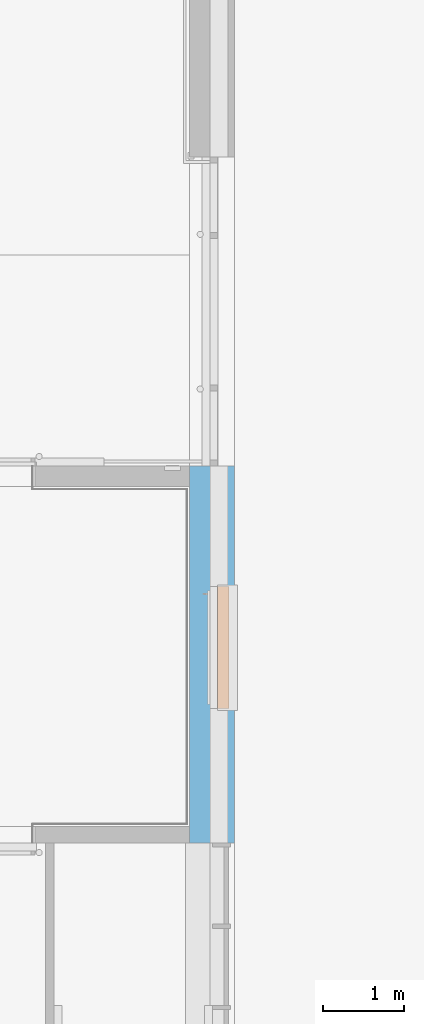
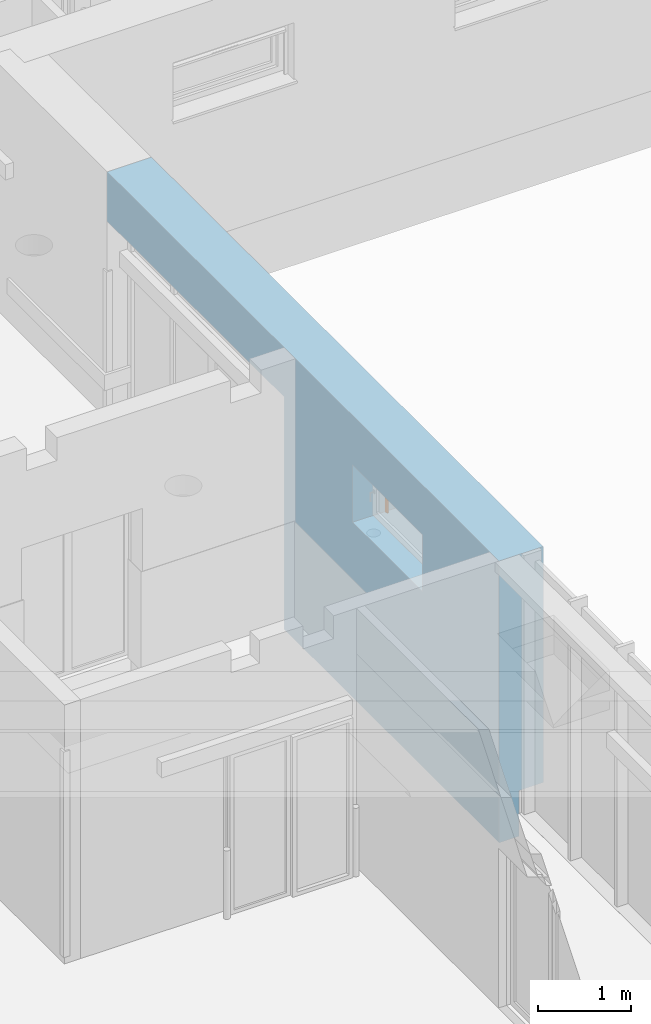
# One storey, part 107 of 140: 1 proxy, 2 openings, plus 1 element that does not belong to this part.
"""IFC4 building model written with IfcOpenShell, lengths in metres."""

from ifc_helpers import new_model, entity, si_unit, converted_unit, derived_unit, frame, frame_2d, origin, origin_with_axes, place, context, subcontext, project, spatial, polyline, rectangle, outline, extrude, clip, bounded_halfspace, faceted_brep, source, transform, mapped, material, layer, layer_set, layer_usage, element, fill, save


model = new_model("IFC4")

# Units and contexts
model_context = context("Model", 3, precision=1e-05, world=origin())
body_context = subcontext(model_context, "Body", "Model", "MODEL_VIEW")
ifc_project = project(units=[si_unit("LENGTHUNIT", "METRE"), si_unit("AREAUNIT", "SQUARE_METRE"), si_unit("VOLUMEUNIT", "CUBIC_METRE"), si_unit("MASSUNIT", "GRAM", prefix="KILO"), converted_unit("PLANEANGLEUNIT", "DEGREE", entity("IfcPlaneAngleMeasure", 0.0174532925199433), si_unit("PLANEANGLEUNIT", "RADIAN"), dimensions=[0, 0, 0, 0, 0, 0, 0]), derived_unit("THERMALTRANSMITTANCEUNIT", [(si_unit("POWERUNIT", "WATT"), 1), (si_unit("THERMODYNAMICTEMPERATUREUNIT", "KELVIN"), -1), (si_unit("LENGTHUNIT", "METRE"), -2)]), derived_unit("VOLUMETRICFLOWRATEUNIT", [(si_unit("LENGTHUNIT", "METRE"), 3), (converted_unit("TIMEUNIT", "hour", entity("IfcTimeMeasure", 3600.0), si_unit("TIMEUNIT", "SECOND"), dimensions=[0, 0, 1, 0, 0, 0, 0]), -1), (si_unit("LENGTHUNIT", "METRE"), -1)])], contexts=[model_context])

# Site, building, storey
site_placement = place(None, origin())
site = spatial("IfcSite", under=ifc_project, at=site_placement, Name="3. ASŘ", CompositionType="ELEMENT")
building_placement = place(site_placement, origin())
building = spatial("IfcBuilding", under=site, at=building_placement, Name="Pavilon C", CompositionType="ELEMENT")
storey_placement = place(building_placement, origin())
storey = spatial("IfcBuildingStorey", under=building, at=storey_placement, Name="Půdorys 1.NP", CompositionType="ELEMENT", Elevation=0.0)

# Wall, openings, proxy
ifc_material_1 = material(Name="ZELEZOBETONOVÁ KCE")
ifc_layer_1 = layer(ifc_material_1, 0.25)
ifc_material_2 = material(Name="MINERÁLNÍ VATA")
ifc_layer_2 = layer(ifc_material_2, 0.3)
ifc_layer_set = layer_set([ifc_layer_1, ifc_layer_2])
ifc_layer_usage = layer_usage(ifc_layer_set, "AXIS2", "POSITIVE", 0.0)
wall_placement = place(storey_placement, frame((55.45, 3.82999999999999, -0.3), z_axis=(0.0, 0.0, 1.0), x_axis=(0.0, -1.0, 0.0)))
wall = element("IfcWall", 1, at=wall_placement, inside=storey, material=ifc_layer_usage, Name="ZELEZOBETONOVÁ KCE", context=body_context, shape_type="Clipping", body=[
    clip(extrude(rectangle(XDim=8.42999999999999, YDim=0.55, at=frame_2d((4.21499999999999, 0.275), x_axis=(1.0, 0.0))), origin_with_axes(), (0.0, 0.0, 1.0), 3.7), bounded_halfspace(frame((4.21499999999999, 0.4, 0.6), z_axis=(0.0, 0.0, 1.0), x_axis=(0.0, -1.0, 0.0)), True, origin_with_axes(), polyline([(0.0, 0.55), (0.0, 0.250000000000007), (8.42999999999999, 0.250000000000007), (8.42999999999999, 0.55), (0.0, 0.55)]))),
])
opening_1_placement = place(wall_placement, frame((3.8, 0.25, 0.0), z_axis=(0.0, -1.0, 0.0), x_axis=(0.0, 0.0, 1.0)))
element("IfcOpeningElement", 2, at=opening_1_placement, cuts=wall, Name="Dveřní otvor", ObjectType="Opening", context=body_context, shape_type="SweptSolid", body=[
    extrude(outline(polyline([(0.0, 3.8), (3.05, 3.8), (3.05, 0.0), (0.0, 0.0), (0.0, 3.8)])), origin_with_axes(), (0.0, 0.0, 1.0), 0.25),
    extrude(outline(polyline([(0.0, 3.8), (3.05, 3.8), (3.05, 0.0), (0.0, 0.0), (0.0, 3.8)])), frame((0.0, -1.4210854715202e-17, -0.3), z_axis=(0.0, 0.0, 1.0), x_axis=(1.0, 0.0, 0.0)), (0.0, 0.0, 1.0), 0.3),
])
opening_2_placement = place(wall_placement, frame((6.77999999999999, 0.25, 2.3), z_axis=(0.0, -1.0, 0.0), x_axis=(0.0, 0.0, 1.0)))
opening_2 = element("IfcOpeningElement", 3, at=opening_2_placement, cuts=wall, Name="Okenní otvor", ObjectType="Opening", context=body_context, shape_type="SweptSolid", body=[
    extrude(outline(polyline([(0.0, 1.5), (0.75, 1.5), (0.75, 0.0), (0.0, 0.0), (0.0, 1.5)])), origin_with_axes(), (0.0, 0.0, 1.0), 0.25),
    extrude(outline(polyline([(0.0, 1.5), (0.75, 1.5), (0.75, 0.0), (0.0, 0.0), (0.0, 1.5)])), frame((0.0, 0.0, -0.3), z_axis=(0.0, 0.0, 1.0), x_axis=(1.0, 0.0, 0.0)), (0.0, 0.0, 1.0), 0.3),
])
shared_shape = source(origin_with_axes(), body_context, "Body", "Brep", [
    faceted_brep([(1.36424205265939e-15, -0.231999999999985, 0.75), (1.36424205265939e-15, -0.229999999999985, 0.75), (1.36424205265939e-15, -0.229999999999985, 0.948), (1.36424205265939e-15, -0.0939999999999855, 0.948), (1.36424205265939e-15, -0.0939999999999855, 0.75), (1.36424205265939e-15, -0.0919999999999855, 0.75), (1.36424205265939e-15, -0.0919999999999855, 0.95), (1.36424205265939e-15, -0.231999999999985, 0.95), (1.5, -0.229999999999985, 0.75), (1.5, -0.231999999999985, 0.75), (1.5, -0.231999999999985, 0.95), (1.5, -0.0919999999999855, 0.95), (1.5, -0.0919999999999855, 0.75), (1.5, -0.0939999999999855, 0.75), (1.5, -0.0939999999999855, 0.948), (1.5, -0.229999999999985, 0.948)], [[[0, 1, 2, 3, 4, 5, 6, 7]], [[8, 9, 10, 11, 12, 13, 14, 15]], [[1, 0, 9, 8]], [[2, 1, 8, 15]], [[3, 2, 15, 14]], [[4, 3, 14, 13]], [[5, 4, 13, 12]], [[6, 5, 12, 11]], [[7, 6, 11, 10]], [[0, 7, 10, 9]]], orient=[[False], [False], [False], [False], [False], [False], [False], [False], [False], [False]]),
    faceted_brep([(1.36424205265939e-15, -0.229999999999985, 0.75), (1.36424205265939e-15, -0.0939999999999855, 0.75), (1.36424205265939e-15, -0.0939999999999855, 0.948), (1.36424205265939e-15, -0.229999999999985, 0.948), (0.00200000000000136, -0.0939999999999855, 0.75), (0.00200000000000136, -0.229999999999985, 0.75), (0.00200000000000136, -0.229999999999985, 0.948), (0.00200000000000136, -0.0939999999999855, 0.948)], [[[0, 1, 2, 3]], [[4, 5, 6, 7]], [[1, 0, 5, 4]], [[2, 1, 4, 7]], [[3, 2, 7, 6]], [[0, 3, 6, 5]]], orient=[[False], [False], [False], [False], [False], [False]]),
    faceted_brep([(1.498, -0.229999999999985, 0.75), (1.498, -0.0939999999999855, 0.75), (1.498, -0.0939999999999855, 0.948), (1.498, -0.229999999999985, 0.948), (1.5, -0.0939999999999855, 0.75), (1.5, -0.229999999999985, 0.75), (1.5, -0.229999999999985, 0.948), (1.5, -0.0939999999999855, 0.948)], [[[0, 1, 2, 3]], [[4, 5, 6, 7]], [[1, 0, 5, 4]], [[2, 1, 4, 7]], [[3, 2, 7, 6]], [[0, 3, 6, 5]]], orient=[[False], [False], [False], [False], [False], [False]]),
    faceted_brep([(0.00200000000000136, -0.151999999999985, 0.0), (0.00200000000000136, -0.171999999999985, 0.0), (0.0420000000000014, -0.171999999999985, 0.0), (0.0420000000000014, -0.151999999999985, 0.0), (0.00200000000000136, -0.171999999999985, 0.769), (0.00200000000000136, -0.151999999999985, 0.769), (0.0420000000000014, -0.151999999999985, 0.769), (0.0420000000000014, -0.171999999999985, 0.769)], [[[0, 1, 2, 3]], [[4, 5, 6, 7]], [[1, 0, 5, 4]], [[2, 1, 4, 7]], [[3, 2, 7, 6]], [[0, 3, 6, 5]]], orient=[[False], [False], [False], [False], [False], [False]]),
    faceted_brep([(1.458, -0.151999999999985, 0.0), (1.458, -0.171999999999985, 0.0), (1.498, -0.171999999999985, 0.0), (1.498, -0.151999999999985, 0.0), (1.458, -0.171999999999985, 0.769), (1.458, -0.151999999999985, 0.769), (1.498, -0.151999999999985, 0.769), (1.498, -0.171999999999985, 0.769)], [[[0, 1, 2, 3]], [[4, 5, 6, 7]], [[1, 0, 5, 4]], [[2, 1, 4, 7]], [[3, 2, 7, 6]], [[0, 3, 6, 5]]], orient=[[False], [False], [False], [False], [False], [False]]),
    faceted_brep([(0.0420000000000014, -0.121999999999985, 0.6021), (0.0420000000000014, -0.201999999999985, 0.6021), (0.0420000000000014, -0.201999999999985, 0.5871), (0.0420000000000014, -0.121999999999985, 0.5871), (1.458, -0.201999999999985, 0.6021), (1.458, -0.121999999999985, 0.6021), (1.458, -0.121999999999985, 0.5871), (1.458, -0.201999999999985, 0.5871)], [[[0, 1, 2, 3]], [[4, 5, 6, 7]], [[1, 0, 5, 4]], [[2, 1, 4, 7]], [[3, 2, 7, 6]], [[0, 3, 6, 5]]], orient=[[False], [False], [False], [False], [False], [False]]),
    faceted_brep([(0.0420000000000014, -0.121999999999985, 0.6031), (0.0420000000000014, -0.201999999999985, 0.6031), (0.0420000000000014, -0.201999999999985, 0.6021), (0.0420000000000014, -0.121999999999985, 0.6021), (1.458, -0.201999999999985, 0.6031), (1.458, -0.121999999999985, 0.6031), (1.458, -0.121999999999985, 0.6021), (1.458, -0.201999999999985, 0.6021)], [[[0, 1, 2, 3]], [[4, 5, 6, 7]], [[1, 0, 5, 4]], [[2, 1, 4, 7]], [[3, 2, 7, 6]], [[0, 3, 6, 5]]], orient=[[False], [False], [False], [False], [False], [False]]),
    faceted_brep([(0.0420000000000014, -0.121999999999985, 0.6041), (0.0420000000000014, -0.201999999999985, 0.6041), (0.0420000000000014, -0.201999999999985, 0.6031), (0.0420000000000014, -0.121999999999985, 0.6031), (1.458, -0.201999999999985, 0.6041), (1.458, -0.121999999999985, 0.6041), (1.458, -0.121999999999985, 0.6031), (1.458, -0.201999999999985, 0.6031)], [[[0, 1, 2, 3]], [[4, 5, 6, 7]], [[1, 0, 5, 4]], [[2, 1, 4, 7]], [[3, 2, 7, 6]], [[0, 3, 6, 5]]], orient=[[False], [False], [False], [False], [False], [False]]),
    faceted_brep([(0.0420000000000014, -0.121999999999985, 0.6051), (0.0420000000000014, -0.201999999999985, 0.6051), (0.0420000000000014, -0.201999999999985, 0.6041), (0.0420000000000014, -0.121999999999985, 0.6041), (1.458, -0.201999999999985, 0.6051), (1.458, -0.121999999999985, 0.6051), (1.458, -0.121999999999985, 0.6041), (1.458, -0.201999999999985, 0.6041)], [[[0, 1, 2, 3]], [[4, 5, 6, 7]], [[1, 0, 5, 4]], [[2, 1, 4, 7]], [[3, 2, 7, 6]], [[0, 3, 6, 5]]], orient=[[False], [False], [False], [False], [False], [False]]),
    faceted_brep([(0.0420000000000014, -0.121999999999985, 0.6061), (0.0420000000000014, -0.201999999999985, 0.6061), (0.0420000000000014, -0.201999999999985, 0.6051), (0.0420000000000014, -0.121999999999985, 0.6051), (1.458, -0.201999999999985, 0.6061), (1.458, -0.121999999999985, 0.6061), (1.458, -0.121999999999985, 0.6051), (1.458, -0.201999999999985, 0.6051)], [[[0, 1, 2, 3]], [[4, 5, 6, 7]], [[1, 0, 5, 4]], [[2, 1, 4, 7]], [[3, 2, 7, 6]], [[0, 3, 6, 5]]], orient=[[False], [False], [False], [False], [False], [False]]),
    faceted_brep([(0.0420000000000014, -0.121999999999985, 0.6071), (0.0420000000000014, -0.201999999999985, 0.6071), (0.0420000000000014, -0.201999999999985, 0.6061), (0.0420000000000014, -0.121999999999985, 0.6061), (1.458, -0.201999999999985, 0.6071), (1.458, -0.121999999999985, 0.6071), (1.458, -0.121999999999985, 0.6061), (1.458, -0.201999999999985, 0.6061)], [[[0, 1, 2, 3]], [[4, 5, 6, 7]], [[1, 0, 5, 4]], [[2, 1, 4, 7]], [[3, 2, 7, 6]], [[0, 3, 6, 5]]], orient=[[False], [False], [False], [False], [False], [False]]),
    faceted_brep([(0.0420000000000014, -0.121999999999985, 0.6081), (0.0420000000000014, -0.201999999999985, 0.6081), (0.0420000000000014, -0.201999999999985, 0.6071), (0.0420000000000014, -0.121999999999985, 0.6071), (1.458, -0.201999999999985, 0.6081), (1.458, -0.121999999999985, 0.6081), (1.458, -0.121999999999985, 0.6071), (1.458, -0.201999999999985, 0.6071)], [[[0, 1, 2, 3]], [[4, 5, 6, 7]], [[1, 0, 5, 4]], [[2, 1, 4, 7]], [[3, 2, 7, 6]], [[0, 3, 6, 5]]], orient=[[False], [False], [False], [False], [False], [False]]),
    faceted_brep([(0.0420000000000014, -0.121999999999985, 0.6091), (0.0420000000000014, -0.201999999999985, 0.6091), (0.0420000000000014, -0.201999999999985, 0.6081), (0.0420000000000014, -0.121999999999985, 0.6081), (1.458, -0.201999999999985, 0.6091), (1.458, -0.121999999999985, 0.6091), (1.458, -0.121999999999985, 0.6081), (1.458, -0.201999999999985, 0.6081)], [[[0, 1, 2, 3]], [[4, 5, 6, 7]], [[1, 0, 5, 4]], [[2, 1, 4, 7]], [[3, 2, 7, 6]], [[0, 3, 6, 5]]], orient=[[False], [False], [False], [False], [False], [False]]),
    faceted_brep([(0.0420000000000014, -0.121999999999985, 0.6101), (0.0420000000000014, -0.201999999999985, 0.6101), (0.0420000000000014, -0.201999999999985, 0.6091), (0.0420000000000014, -0.121999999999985, 0.6091), (1.458, -0.201999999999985, 0.6101), (1.458, -0.121999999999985, 0.6101), (1.458, -0.121999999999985, 0.6091), (1.458, -0.201999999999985, 0.6091)], [[[0, 1, 2, 3]], [[4, 5, 6, 7]], [[1, 0, 5, 4]], [[2, 1, 4, 7]], [[3, 2, 7, 6]], [[0, 3, 6, 5]]], orient=[[False], [False], [False], [False], [False], [False]]),
    faceted_brep([(0.0420000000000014, -0.121999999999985, 0.6111), (0.0420000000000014, -0.201999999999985, 0.6111), (0.0420000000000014, -0.201999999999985, 0.6101), (0.0420000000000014, -0.121999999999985, 0.6101), (1.458, -0.201999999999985, 0.6111), (1.458, -0.121999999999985, 0.6111), (1.458, -0.121999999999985, 0.6101), (1.458, -0.201999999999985, 0.6101)], [[[0, 1, 2, 3]], [[4, 5, 6, 7]], [[1, 0, 5, 4]], [[2, 1, 4, 7]], [[3, 2, 7, 6]], [[0, 3, 6, 5]]], orient=[[False], [False], [False], [False], [False], [False]]),
    faceted_brep([(0.0420000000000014, -0.121999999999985, 0.6121), (0.0420000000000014, -0.201999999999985, 0.6121), (0.0420000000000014, -0.201999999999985, 0.6111), (0.0420000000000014, -0.121999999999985, 0.6111), (1.458, -0.201999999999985, 0.6121), (1.458, -0.121999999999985, 0.6121), (1.458, -0.121999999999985, 0.6111), (1.458, -0.201999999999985, 0.6111)], [[[0, 1, 2, 3]], [[4, 5, 6, 7]], [[1, 0, 5, 4]], [[2, 1, 4, 7]], [[3, 2, 7, 6]], [[0, 3, 6, 5]]], orient=[[False], [False], [False], [False], [False], [False]]),
    faceted_brep([(0.0420000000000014, -0.121999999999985, 0.6131), (0.0420000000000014, -0.201999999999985, 0.6131), (0.0420000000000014, -0.201999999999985, 0.6121), (0.0420000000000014, -0.121999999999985, 0.6121), (1.458, -0.201999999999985, 0.6131), (1.458, -0.121999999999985, 0.6131), (1.458, -0.121999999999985, 0.6121), (1.458, -0.201999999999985, 0.6121)], [[[0, 1, 2, 3]], [[4, 5, 6, 7]], [[1, 0, 5, 4]], [[2, 1, 4, 7]], [[3, 2, 7, 6]], [[0, 3, 6, 5]]], orient=[[False], [False], [False], [False], [False], [False]]),
    faceted_brep([(0.0420000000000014, -0.121999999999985, 0.6141), (0.0420000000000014, -0.201999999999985, 0.6141), (0.0420000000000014, -0.201999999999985, 0.6131), (0.0420000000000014, -0.121999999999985, 0.6131), (1.458, -0.201999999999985, 0.6141), (1.458, -0.121999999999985, 0.6141), (1.458, -0.121999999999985, 0.6131), (1.458, -0.201999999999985, 0.6131)], [[[0, 1, 2, 3]], [[4, 5, 6, 7]], [[1, 0, 5, 4]], [[2, 1, 4, 7]], [[3, 2, 7, 6]], [[0, 3, 6, 5]]], orient=[[False], [False], [False], [False], [False], [False]]),
    faceted_brep([(0.0420000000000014, -0.121999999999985, 0.6151), (0.0420000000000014, -0.201999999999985, 0.6151), (0.0420000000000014, -0.201999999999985, 0.6141), (0.0420000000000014, -0.121999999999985, 0.6141), (1.458, -0.201999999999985, 0.6151), (1.458, -0.121999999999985, 0.6151), (1.458, -0.121999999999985, 0.6141), (1.458, -0.201999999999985, 0.6141)], [[[0, 1, 2, 3]], [[4, 5, 6, 7]], [[1, 0, 5, 4]], [[2, 1, 4, 7]], [[3, 2, 7, 6]], [[0, 3, 6, 5]]], orient=[[False], [False], [False], [False], [False], [False]]),
    faceted_brep([(0.0420000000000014, -0.121999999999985, 0.6161), (0.0420000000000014, -0.201999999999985, 0.6161), (0.0420000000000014, -0.201999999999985, 0.6151), (0.0420000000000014, -0.121999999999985, 0.6151), (1.458, -0.201999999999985, 0.6161), (1.458, -0.121999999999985, 0.6161), (1.458, -0.121999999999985, 0.6151), (1.458, -0.201999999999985, 0.6151)], [[[0, 1, 2, 3]], [[4, 5, 6, 7]], [[1, 0, 5, 4]], [[2, 1, 4, 7]], [[3, 2, 7, 6]], [[0, 3, 6, 5]]], orient=[[False], [False], [False], [False], [False], [False]]),
    faceted_brep([(0.0420000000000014, -0.123299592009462, 0.645125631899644), (0.0420000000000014, -0.200941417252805, 0.625844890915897), (0.0420000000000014, -0.200700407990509, 0.624874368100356), (0.0420000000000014, -0.123058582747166, 0.644155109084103), (1.458, -0.200941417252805, 0.625844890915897), (1.458, -0.123299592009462, 0.645125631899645), (1.458, -0.123058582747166, 0.644155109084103), (1.458, -0.200700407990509, 0.624874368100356)], [[[0, 1, 2, 3]], [[4, 5, 6, 7]], [[1, 0, 5, 4]], [[2, 1, 4, 7]], [[3, 2, 7, 6]], [[0, 3, 6, 5]]], orient=[[False], [False], [False], [False], [False], [False]]),
    faceted_brep([(0.0420000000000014, -0.127608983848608, 0.700433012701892), (0.0420000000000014, -0.196891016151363, 0.660433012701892), (0.0420000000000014, -0.196391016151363, 0.659566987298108), (0.0420000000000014, -0.127108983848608, 0.699566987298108), (1.458, -0.196891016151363, 0.660433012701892), (1.458, -0.127608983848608, 0.700433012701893), (1.458, -0.127108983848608, 0.699566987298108), (1.458, -0.196391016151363, 0.659566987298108)], [[[0, 1, 2, 3]], [[4, 5, 6, 7]], [[1, 0, 5, 4]], [[2, 1, 4, 7]], [[3, 2, 7, 6]], [[0, 3, 6, 5]]], orient=[[False], [False], [False], [False], [False], [False]]),
    faceted_brep([(0.0420000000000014, -0.127608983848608, 0.745433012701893), (0.0420000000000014, -0.196891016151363, 0.705433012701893), (0.0420000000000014, -0.196391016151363, 0.704566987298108), (0.0420000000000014, -0.127108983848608, 0.744566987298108), (1.458, -0.196891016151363, 0.705433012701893), (1.458, -0.127608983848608, 0.745433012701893), (1.458, -0.127108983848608, 0.744566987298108), (1.458, -0.196391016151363, 0.704566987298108)], [[[0, 1, 2, 3]], [[4, 5, 6, 7]], [[1, 0, 5, 4]], [[2, 1, 4, 7]], [[3, 2, 7, 6]], [[0, 3, 6, 5]]], orient=[[False], [False], [False], [False], [False], [False]]),
])
proxy_placement = place(opening_2_placement, frame((0.0, 0.0, 0.0), z_axis=(1.0, 0.0, 0.0), x_axis=(0.0, 1.0, 0.0)))
proxy = element("IfcBuildingElementProxy", 4, at=proxy_placement, inside=storey, Name="Žaluzie", context=body_context, shape_type="MappedRepresentation", body=[
    mapped(shared_shape, transform((0.0, 0.0, 0.0), x_axis=(1.0, 0.0, 0.0), y_axis=(0.0, 1.0, 0.0), z_axis=(0.0, 0.0, 1.0), scale=1.0)),
])
fill(opening_2, proxy)

save(model, "model.ifc")
